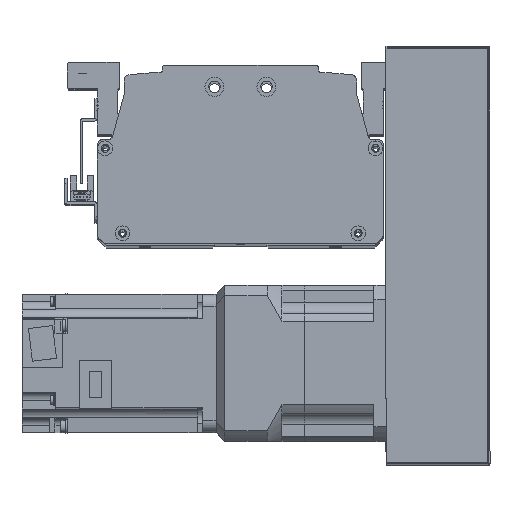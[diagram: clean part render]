
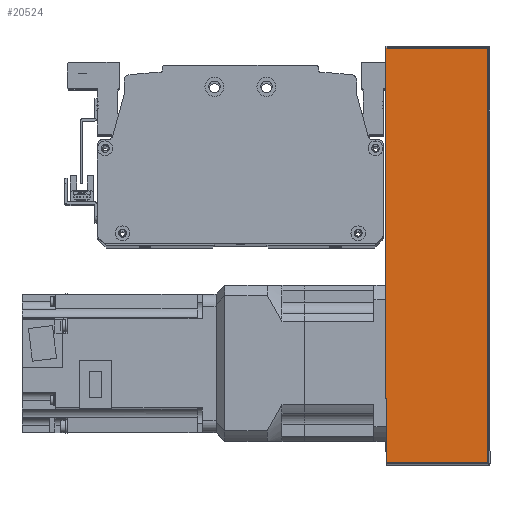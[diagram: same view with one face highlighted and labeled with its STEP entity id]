
A CAD part, top view. The second image highlights one B-rep face of the part: STEP entity #20524.
In plain terms, the highlighted planar face has unit normal (0, 0, 1) as drawn and (0, 1, 0) by its records, which use the part's own axes.
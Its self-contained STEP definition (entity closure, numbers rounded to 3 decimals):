
#548=PLANE('',#22352);
#1679=LINE('',#32597,#3339);
#1698=LINE('',#32681,#3358);
#1700=LINE('',#32691,#3360);
#1701=LINE('',#32693,#3361);
#3339=VECTOR('',#26498,10.);
#3358=VECTOR('',#26611,10.);
#3360=VECTOR('',#26625,10.);
#3361=VECTOR('',#26628,10.);
#5321=FACE_OUTER_BOUND('',#6725,.T.);
#6725=EDGE_LOOP('',(#16106,#16107,#16108,#16109));
#9565=VERTEX_POINT('',#32594);
#9566=VERTEX_POINT('',#32596);
#9583=VERTEX_POINT('',#32675);
#9586=VERTEX_POINT('',#32687);
#11909=EDGE_CURVE('',#9566,#9565,#1679,.T.);
#11952=EDGE_CURVE('',#9583,#9566,#1698,.T.);
#11957=EDGE_CURVE('',#9565,#9586,#1700,.T.);
#11958=EDGE_CURVE('',#9586,#9583,#1701,.T.);
#16106=ORIENTED_EDGE('',*,*,#11952,.T.);
#16107=ORIENTED_EDGE('',*,*,#11909,.T.);
#16108=ORIENTED_EDGE('',*,*,#11957,.T.);
#16109=ORIENTED_EDGE('',*,*,#11958,.T.);
#20524=ADVANCED_FACE('',(#5321),#548,.F.);
#22352=AXIS2_PLACEMENT_3D('',#32700,#26637,#26638);
#26498=DIRECTION('',(-1.,0.,0.));
#26611=DIRECTION('',(0.,0.,-1.));
#26625=DIRECTION('',(0.,0.,1.));
#26628=DIRECTION('',(1.,0.,0.));
#26637=DIRECTION('center_axis',(0.,-1.,0.));
#26638=DIRECTION('ref_axis',(-1.,0.,0.));
#32594=CARTESIAN_POINT('',(-120.,51.,-30.));
#32596=CARTESIAN_POINT('',(120.,51.,-30.));
#32597=CARTESIAN_POINT('',(-121.,51.,-30.));
#32675=CARTESIAN_POINT('',(120.,51.,29.));
#32681=CARTESIAN_POINT('',(120.,51.,0.));
#32687=CARTESIAN_POINT('',(-120.,51.,29.));
#32691=CARTESIAN_POINT('',(-120.,51.,0.));
#32693=CARTESIAN_POINT('',(60.5,51.,29.));
#32700=CARTESIAN_POINT('Origin',(121.,51.,0.));
